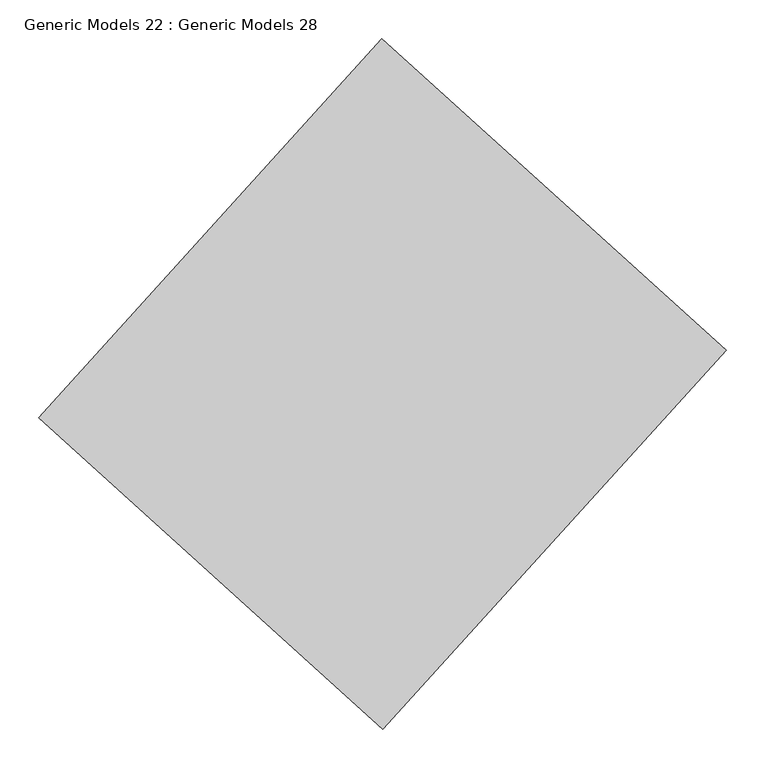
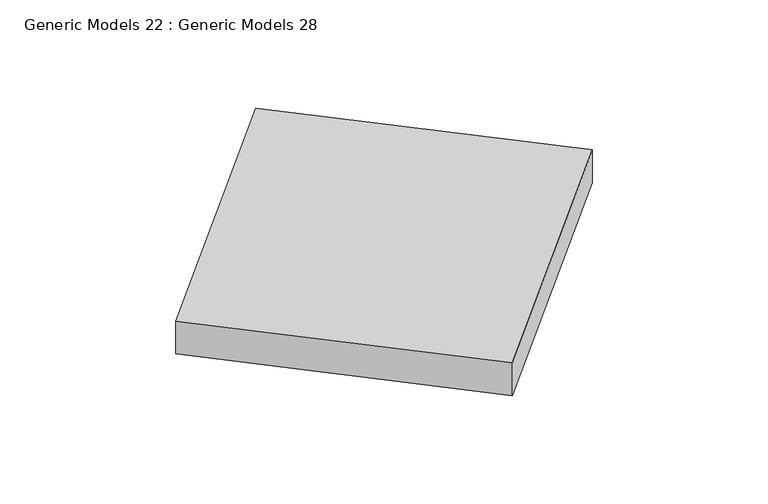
"""IFC4 building model written with IfcOpenShell, lengths in millimetres: proxy geometry, Generic Models 22 : Generic Models 28."""

from ifc_helpers import new_model, si_unit, frame, origin, place, context, project, spatial, polyline, outline, extrude, source, transform, mapped, element, save


def generic_models_22_generic_models_28_1a2de93d(model_context):
    return source(origin(), model_context, "Body", "SweptSolid", [
        extrude(outline(polyline([(-8728.4682681, -3259.5156989), (-8283.6504521, -3662.2863584), (-8727.4544878, -4152.421221), (-9172.2723038, -3749.6505615), (-8728.4682681, -3259.5156989)])), frame((0.0, 0.0, 830.0), z_axis=(0.0, 0.0, 1.0), x_axis=(1.0, 0.0, 0.0)), (0.0, 0.0, 1.0), 70.0),
    ])


if __name__ == "__main__":
    model = new_model("IFC4")
    model_context = context("Model", 3, world=origin())
    ifc_project = project(units=[si_unit("LENGTHUNIT", "METRE", prefix="MILLI")], contexts=[model_context])
    site = spatial("IfcSite", under=ifc_project)
    building = spatial("IfcBuilding", under=site)
    placement = place(None, origin())
    generic_models_22_generic_models_28_shape = generic_models_22_generic_models_28_1a2de93d(model_context)
    element("IfcBuildingElementProxy", 1, Name="Generic Models 22 : Generic Models 28", ObjectType="Generic Models 22 : Generic Models 28", at=placement, inside=building, context=model_context, shape_type="MappedRepresentation", body=[
        mapped(generic_models_22_generic_models_28_shape, transform((0.0, 0.0, 0.0), x_axis=(1.0, 0.0, 0.0), y_axis=(0.0, 1.0, 0.0), z_axis=(0.0, 0.0, 1.0))),
    ])
    save(model, "model.ifc")
